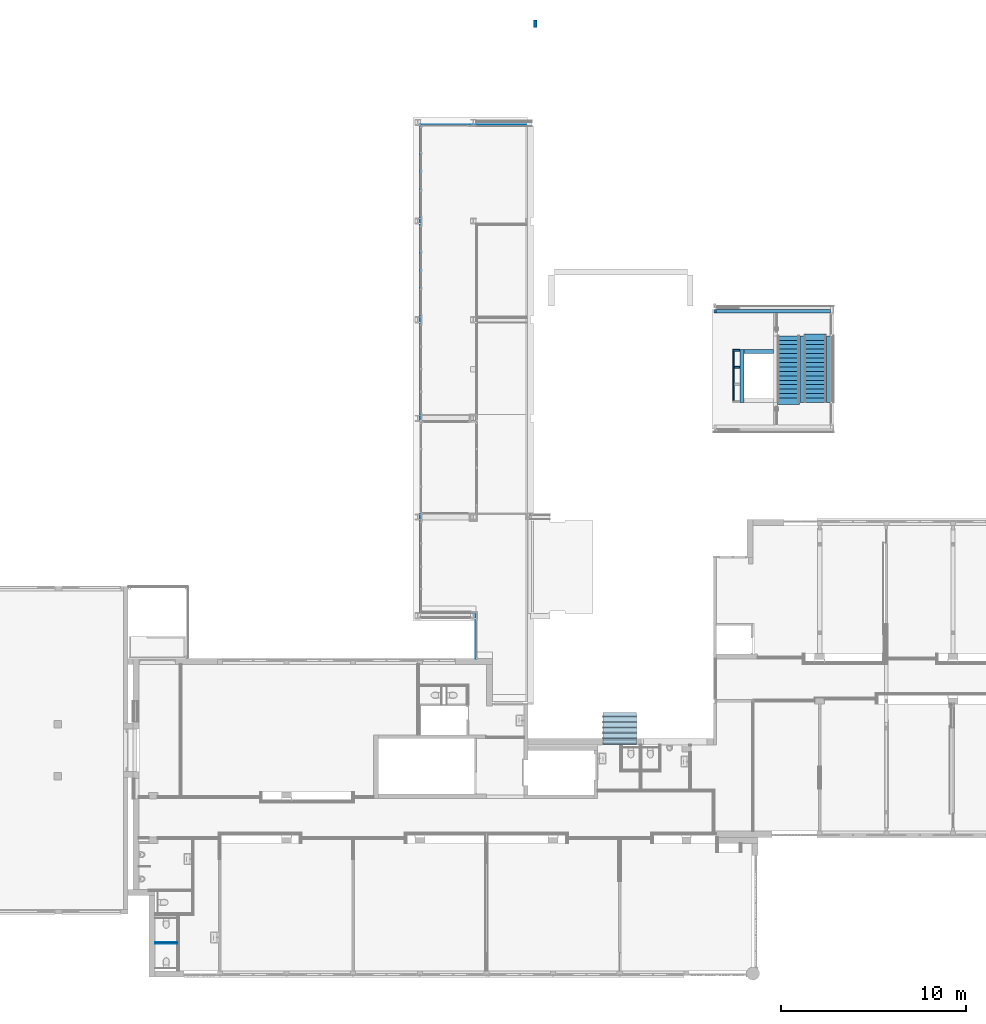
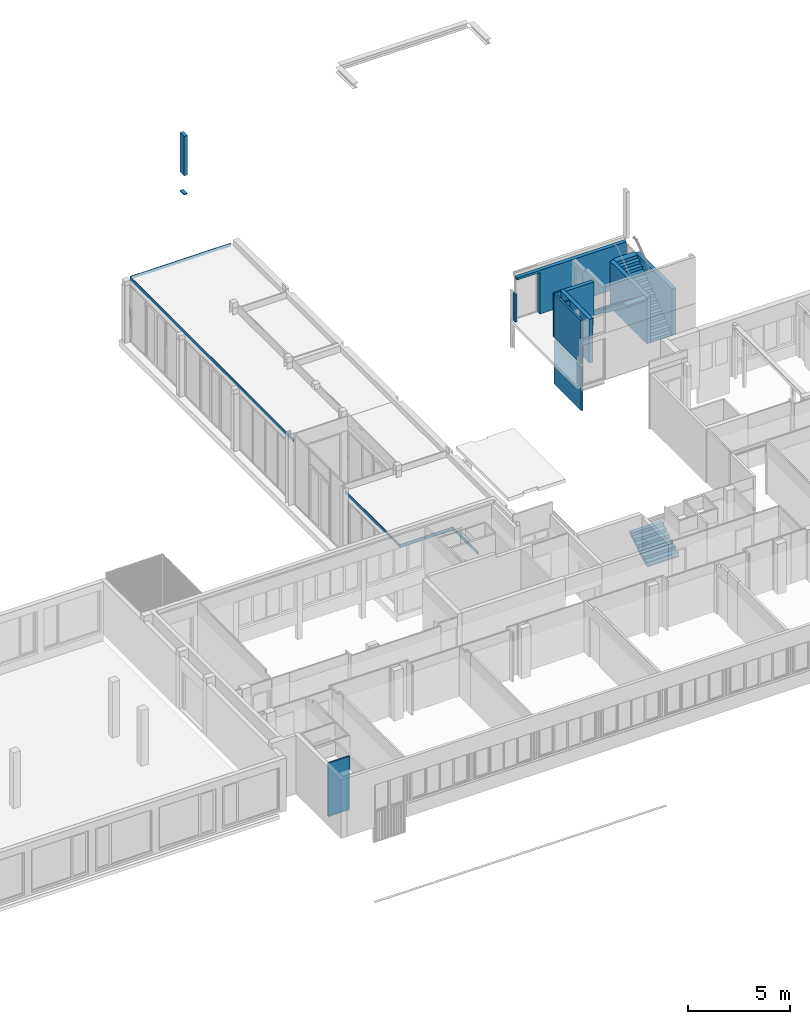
# One storey, part 56 of 99: 10 walls, 3 building element parts, 3 stair flights, 1 roof, 4 elements without a shape of their own.
"""IFC2X3 building model written with IfcOpenShell, lengths in millimetres."""

from ifc_helpers import new_model, entity, si_unit, converted_unit, derived_unit, money_unit, direction, frame, origin_with_axes, place, context, subcontext, project, spatial, faceted_brep, material, type_object, element, aggregate, save


model = new_model("IFC2X3")

# Units and contexts
model_context = context("Model", 3, precision=0.01, world=origin_with_axes(), true_north=direction((0.0, 1.0)))
body_context = subcontext(model_context, "Body", "Model", "MODEL_VIEW")
ifc_project = project(units=[si_unit("LENGTHUNIT", "METRE", prefix="MILLI"), si_unit("AREAUNIT", "SQUARE_METRE"), si_unit("VOLUMEUNIT", "CUBIC_METRE"), converted_unit("PLANEANGLEUNIT", "DEGREE", entity("IfcPlaneAngleMeasure", 0.0174532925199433), si_unit("PLANEANGLEUNIT", "RADIAN"), dimensions=[0, 0, 0, 0, 0, 0, 0]), money_unit("EUR"), converted_unit("TIMEUNIT", "Year", entity("IfcTimeMeasure", 31557600.0), si_unit("TIMEUNIT", "SECOND"), dimensions=[0, 0, 1, 0, 0, 0, 0]), si_unit("MASSUNIT", "GRAM", prefix="KILO"), si_unit("THERMODYNAMICTEMPERATUREUNIT", "DEGREE_CELSIUS"), si_unit("LUMINOUSINTENSITYUNIT", "LUMEN"), si_unit("ENERGYUNIT", "JOULE", prefix="MEGA"), derived_unit("THERMALCONDUCTANCEUNIT", [(si_unit("POWERUNIT", "WATT"), 1), (si_unit("LENGTHUNIT", "METRE"), -1), (si_unit("THERMODYNAMICTEMPERATUREUNIT", "KELVIN"), -1)]), derived_unit("SPECIFICHEATCAPACITYUNIT", [(si_unit("ENERGYUNIT", "JOULE"), 1), (si_unit("MASSUNIT", "GRAM", prefix="KILO"), -1), (si_unit("THERMODYNAMICTEMPERATUREUNIT", "KELVIN"), -1)]), derived_unit("MASSDENSITYUNIT", [(si_unit("MASSUNIT", "GRAM", prefix="KILO"), 1), (si_unit("VOLUMEUNIT", "CUBIC_METRE"), -1)])], contexts=[model_context])

# Site, building, storey
site_placement = place(None, origin_with_axes())
site = spatial("IfcSite", under=ifc_project, at=site_placement, Name="Site", CompositionType="ELEMENT")
building_placement = place(site_placement, origin_with_axes())
building = spatial("IfcBuilding", under=site, at=building_placement, Name="Naam gebouw", CompositionType="ELEMENT")
storey_placement = place(building_placement, frame((0.0, 0.0, 7650.0), z_axis=(0.0, 0.0, 1.0), x_axis=(1.0, 0.0, 0.0)))
storey = spatial("IfcBuildingStorey", under=building, at=storey_placement, Name="2e verdieping N", CompositionType="ELEMENT", Elevation=7650.0)

# Walls
ifc_material_1 = material(Name="ALG - CONSTRUCTIEF")
wall_type_1 = type_object("IfcWallType", Name="ALG - CONSTRUCTIEF 400", PredefinedType="NOTDEFINED")
wall_1_placement = place(storey_placement, frame((20536.0, 54605.9124251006, -99.99999999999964), z_axis=(0.0, 0.0, 1.0), x_axis=(1.0, 0.0, 0.0)))
element("IfcWall", 1, at=wall_1_placement, inside=storey, type_object=wall_type_1, material=ifc_material_1, Name="_Wand-x", context=body_context, shape_type="Brep", body=[
    faceted_brep([(0.0, 200.0000000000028, 0.0), (0.0, 200.0000000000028, 49.99999999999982), (188.9999999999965, 200.0000000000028, 49.99999999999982), (188.9999999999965, 200.0000000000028, 0.0), (0.0, -200.0000000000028, 0.0), (0.0, -200.0000000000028, 49.99999999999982), (188.9999999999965, -200.0000000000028, 49.99999999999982), (188.9999999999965, -200.0000000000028, 0.0)], [[[0, 1, 2, 3]], [[4, 5, 1, 0]], [[5, 6, 2, 1]], [[3, 2, 6, 7]], [[0, 3, 7, 4]], [[7, 6, 5, 4]]]),
    faceted_brep([(188.9999999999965, -200.0000000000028, 3500.0), (188.9999999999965, -200.0000000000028, 1139.999999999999), (188.9999999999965, 200.0000000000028, 1139.999999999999), (188.9999999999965, 200.0000000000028, 3500.0), (0.0, -200.0000000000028, 3500.0), (0.0, -200.0000000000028, 1139.999999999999), (0.0, 200.0000000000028, 1139.999999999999), (0.0, 200.0000000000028, 3500.0)], [[[0, 1, 2, 3]], [[4, 5, 1, 0]], [[5, 6, 2, 1]], [[3, 2, 6, 7]], [[0, 3, 7, 4]], [[7, 6, 5, 4]]]),
])
ifc_material_2 = material(Name="kalkzandsteen")
wall_type_2 = type_object("IfcWallType", Name="Basic Wall:NLRS_28_kalkzandsteen 100mm", PredefinedType="STANDARD")
wall_2_placement = place(storey_placement, frame((31342.00000005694, 34195.91242627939, -4500.0), z_axis=(0.0, 0.0, 1.0), x_axis=(0.0, 1.0, 0.0)))
element("IfcWall", 2, at=wall_2_placement, inside=storey, type_object=wall_type_2, material=ifc_material_2, Name="Basic Wall:NLRS_28_kalkzandsteen 100mm", context=body_context, shape_type="Brep", body=[
    faceted_brep([(2717.999999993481, 50.0000000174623, 0.0), (2717.999999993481, -50.0000000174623, 0.0), (49.99999998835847, -50.0000000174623, 0.0), (49.99999998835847, 50.0000000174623, 0.0), (2717.999999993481, 50.0000000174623, 2600.0), (2717.999999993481, -50.0000000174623, 2600.0), (49.99999998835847, -50.0000000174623, 2600.0), (49.99999998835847, 50.0000000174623, 2600.0)], [[[0, 1, 2, 3]], [[1, 0, 4, 5]], [[1, 5, 6, 2]], [[7, 3, 2, 6]], [[4, 0, 3, 7]], [[5, 4, 7, 6]]]),
])
wall_3_placement = place(storey_placement, frame((31342.00000005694, 34195.91242627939, -1729.99999999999), z_axis=(0.0, 0.0, 1.0), x_axis=(0.0, 1.0, 0.0)))
element("IfcWall", 3, at=wall_3_placement, inside=storey, type_object=wall_type_2, material=ifc_material_2, Name="Basic Wall:NLRS_28_kalkzandsteen 100mm", context=body_context, shape_type="Brep", body=[
    faceted_brep([(2718.000000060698, 49.99999998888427, 0.0), (2718.000000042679, -50.00000007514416, 0.0), (49.99999999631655, -50.00000004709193, 0.0), (49.99999998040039, 50.0000000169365, 0.0), (2718.000000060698, 49.99999998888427, 2600.000000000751), (2718.000000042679, -50.00000007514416, 2600.000000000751), (49.99999999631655, -50.00000004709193, 2600.000000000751), (49.99999998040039, 50.0000000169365, 2600.000000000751)], [[[0, 1, 2, 3]], [[1, 0, 4, 5]], [[1, 5, 6, 2]], [[7, 3, 2, 6]], [[4, 0, 3, 7]], [[5, 4, 7, 6]]]),
])
wall_4_placement = place(storey_placement, frame((31685.00000002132, 36963.91242631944, -1729.99999999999), z_axis=(0.0, 0.0, 1.0), x_axis=(-1.0, 1.69701635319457e-10, 0.0)))
element("IfcWall", 4, at=wall_4_placement, inside=storey, type_object=wall_type_2, material=ifc_material_2, Name="Basic Wall:NLRS_28_kalkzandsteen 100mm", context=body_context, shape_type="Brep", body=[
    faceted_brep([(393.0000000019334, 50.00000011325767, 0.0), (393.0000000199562, -49.99999992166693, 0.0), (8.487432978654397e-09, -49.99999998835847, 0.0), (-8.483880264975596e-09, 50.00000004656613, 0.0), (393.0000000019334, 50.00000011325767, 2600.000000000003), (393.0000000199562, -49.99999992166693, 2600.000000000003), (8.487432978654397e-09, -49.99999998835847, 2600.000000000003), (-8.483880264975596e-09, 50.00000004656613, 2600.000000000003)], [[[0, 1, 2, 3]], [[1, 0, 4, 5]], [[1, 5, 6, 2]], [[7, 3, 2, 6]], [[4, 0, 3, 7]], [[5, 4, 7, 6]]]),
])
wall_5_placement = place(storey_placement, frame((31792.00000003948, 36049.91242632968, -1729.99999999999), z_axis=(0.0, 0.0, 1.0), x_axis=(-1.0, 0.0, 0.0)))
element("IfcWall", 5, at=wall_5_placement, inside=storey, type_object=wall_type_2, material=ifc_material_2, Name="Basic Wall:NLRS_28_kalkzandsteen 100mm", context=body_context, shape_type="Brep", body=[
    faceted_brep([(399.9999999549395, 50.00000004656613, 0.0), (399.9999999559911, -50.00000004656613, 0.0), (106.999999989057, -50.00000004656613, 0.0), (106.999999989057, 50.00000004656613, 0.0), (399.9999999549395, 50.00000004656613, 2600.000000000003), (399.9999999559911, -50.00000004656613, 2600.000000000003), (106.999999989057, -50.00000004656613, 2600.000000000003), (106.999999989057, 50.00000004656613, 2600.000000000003)], [[[0, 1, 2, 3]], [[1, 0, 4, 5]], [[1, 5, 6, 2]], [[7, 3, 2, 6]], [[4, 0, 3, 7]], [[5, 4, 7, 6]]]),
])
wall_type_3 = type_object("IfcWallType", Name="Basic Wall:NLRS_28_kalkzandsteen 214mm", PredefinedType="STANDARD")
wall_6_placement = place(storey_placement, frame((36474.00000001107, 37745.91242626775, -1729.99999999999), z_axis=(0.0, 0.0, 1.0), x_axis=(0.0, -1.0, 0.0)))
element("IfcWall", 6, at=wall_6_placement, inside=storey, type_object=wall_type_3, material=ifc_material_2, Name="Basic Wall:NLRS_28_kalkzandsteen 214mm", context=body_context, shape_type="Brep", body=[
    faceted_brep([(0.0, 107.0000000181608, 0.0), (3599.999999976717, 107.0000000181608, 0.0), (3599.999999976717, -106.999999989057, 0.0), (0.0, -106.999999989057, 0.0), (0.0, 107.0000000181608, 2769.999999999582), (3599.999999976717, 107.0000000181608, 2769.999999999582), (3599.999999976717, -106.999999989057, 2769.999999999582), (0.0, -106.999999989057, 2769.999999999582)], [[[0, 1, 2, 3]], [[4, 5, 1, 0]], [[2, 1, 5, 6]], [[3, 2, 6, 7]], [[4, 0, 3, 7]], [[7, 6, 5, 4]]]),
])
wall_7_placement = place(storey_placement, frame((31792.00000003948, 36906.91242634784, -1729.99999999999), z_axis=(0.0, 0.0, 1.0), x_axis=(1.0, 0.0, 0.0)))
element("IfcWall", 7, at=wall_7_placement, inside=storey, type_object=wall_type_3, material=ifc_material_2, Name="Basic Wall:NLRS_28_kalkzandsteen 214mm", context=body_context, shape_type="Brep", body=[
    faceted_brep([(1706.99999998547, 107.0000000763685, 0.0), (1706.99999998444, -107.0000000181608, 0.0), (107.0000000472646, -107.0000000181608, 0.0), (107.0000000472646, 107.0000000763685, 0.0), (1706.99999998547, 107.0000000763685, 2600.000000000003), (1706.99999998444, -107.0000000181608, 2600.000000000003), (107.0000000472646, -107.0000000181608, 2600.000000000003), (107.0000000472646, 107.0000000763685, 2600.000000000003)], [[[0, 1, 2, 3]], [[1, 0, 4, 5]], [[1, 5, 6, 2]], [[7, 3, 2, 6]], [[4, 0, 3, 7]], [[5, 4, 7, 6]]]),
])
wall_8_placement = place(storey_placement, frame((31792.00000003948, 36906.91242634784, -1729.99999999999), z_axis=(0.0, 0.0, 1.0), x_axis=(0.0, -1.0, 0.0)))
element("IfcWall", 8, at=wall_8_placement, inside=storey, type_object=wall_type_3, material=ifc_material_2, Name="Basic Wall:NLRS_28_kalkzandsteen 214mm", context=body_context, shape_type="Brep", body=[
    faceted_brep([(2761.000000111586, 107.0000000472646, 0.0), (2761.00000011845, -106.999999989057, 0.0), (-107.0000000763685, -106.999999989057, 0.0), (-107.0000000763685, 107.0000000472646, 0.0), (2761.000000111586, 107.0000000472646, 2600.000000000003), (2761.00000011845, -106.999999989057, 2600.000000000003), (-107.0000000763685, -106.999999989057, 2600.000000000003), (-107.0000000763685, 107.0000000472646, 2600.000000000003)], [[[0, 1, 2, 3]], [[1, 0, 4, 5]], [[1, 5, 6, 2]], [[7, 3, 2, 6]], [[4, 0, 3, 7]], [[5, 4, 7, 6]]]),
])
wall_9_placement = place(storey_placement, frame((35040.0000000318, 34145.91242629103, -1729.99999999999), z_axis=(0.0, 0.0, 1.0), x_axis=(0.0, 1.0, 0.0)))
element("IfcWall", 9, at=wall_9_placement, inside=storey, type_object=wall_type_3, material=ifc_material_2, Name="Basic Wall:NLRS_28_kalkzandsteen 214mm", context=body_context, shape_type="Brep", body=[
    faceted_brep([(0.0, 107.0000000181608, 0.0), (3599.999999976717, 107.0000000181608, 0.0), (3599.999999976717, -106.999999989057, 0.0), (0.0, -106.999999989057, 0.0), (0.0, 107.0000000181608, 2770.000000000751), (3599.999999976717, 107.0000000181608, 2770.000000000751), (3599.999999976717, -106.999999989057, 2770.000000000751), (0.0, -106.999999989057, 2770.000000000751)], [[[0, 1, 2, 3]], [[4, 5, 1, 0]], [[2, 1, 5, 6]], [[3, 2, 6, 7]], [[4, 0, 3, 7]], [[7, 6, 5, 4]]]),
])
wall_10_placement = place(storey_placement, frame((30291.00000005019, 39072.91242631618, -1729.99999999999), z_axis=(0.0, 0.0, 1.0), x_axis=(1.0, 0.0, 0.0)))
element("IfcWall", 10, at=wall_10_placement, inside=storey, type_object=wall_type_3, material=ifc_material_2, Name="Basic Wall:NLRS_28_kalkzandsteen 214mm", context=body_context, shape_type="Brep", body=[
    faceted_brep([(100.0, -107.0, 1630.0), (0.0, -107.0, 1630.0), (0.0, -107.0, 0.0), (100.0, -107.0, 0.0), (100.0, 107.0, 1630.0), (0.0, 107.0, 1630.0), (0.0, 107.0, 0.0), (100.0, 107.0, 0.0)], [[[0, 1, 2, 3]], [[4, 5, 1, 0]], [[6, 2, 1, 5]], [[2, 6, 7, 3]], [[0, 3, 7, 4]], [[5, 4, 7, 6]]]),
    faceted_brep([(6290.0, 107.0, 2600.0), (6290.0, 107.0, 0.0), (1394.01028261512, 107.0, 0.0), (1394.01028261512, 107.0, 2470.0), (100.0, 107.0, 2470.0), (100.0, 107.0, 2600.0), (6290.0, -107.0, 2600.0), (6290.0, -107.0, 0.0), (3422.0, -107.0, 0.0), (3208.0, -107.0, 0.0), (1394.01028261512, -107.0, 0.0), (1394.01028261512, -107.0, 2470.0), (100.0, -107.0, 2470.0), (100.0, -107.0, 2600.0)], [[[0, 1, 2, 3, 4, 5]], [[6, 7, 1, 0]], [[1, 7, 8, 9, 10, 2]], [[11, 3, 2, 10]], [[3, 11, 12, 4]], [[13, 5, 4, 12]], [[13, 6, 0, 5]], [[7, 6, 13, 12, 11, 10, 9, 8]]]),
])

# Stair, stair flight
stair_1_placement = place(storey_placement, frame((24296.00000000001, 15650.91242510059, 0.0), z_axis=(0.0, 0.0, 1.0), x_axis=(-0.05672669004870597, 0.9983897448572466, 0.0)))
stair_1 = element("IfcStair", 11, at=stair_1_placement, inside=storey, Name="_Trap-x", ShapeType="NOTDEFINED")
ifc_material_3 = material(Name="Beton C")
stair_flight_type_1 = type_object("IfcStairFlightType", Name="IfcStairFlight", PredefinedType="NOTDEFINED")
stair_flight_1_placement = place(stair_1_placement, origin_with_axes())
stair_flight_1 = element("IfcStairFlight", 12, at=stair_flight_1_placement, type_object=stair_flight_type_1, material=ifc_material_3, Name="_Trapsegment-x", context=body_context, shape_type="Brep", body=[
    faceted_brep([(1655.057908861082, -1896.940515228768, 1002.0), (1655.057908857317, -1896.940515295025, 828.2834653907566), (1757.165950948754, -99.83897448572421, 828.2834653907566), (1757.165950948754, -99.83897448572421, 1002.0), (1459.817247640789, -1885.847295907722, 712.7279098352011), (1557.437578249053, -1891.393905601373, 770.5056876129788), (1420.203361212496, -1883.596506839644, 1002.0), (1420.203361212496, -1883.596506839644, 828.6666666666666), (1127.342369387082, -1866.956677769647, 828.6666666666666), (1127.342369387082, -1866.956677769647, 655.3333333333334), (834.4813775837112, -1850.316848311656, 655.3333333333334), (834.4813775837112, -1850.316848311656, 482.0000000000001), (541.6203857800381, -1833.677018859, 482.0000000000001), (541.6203857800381, -1833.677018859, 308.6666666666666), (248.7593939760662, -1817.037189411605, 308.6666666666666), (248.7593939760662, -1817.037189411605, 135.3333333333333), (-44.10159782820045, -1800.397359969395, 135.3333333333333), (-44.10159782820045, -1800.397359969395, -38.00000000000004), (-102.1080420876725, -1797.101540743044, -38.00000000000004), (-102.1080420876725, -1797.101540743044, -99.99999999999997), (86.64627596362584, -1807.82621790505, -99.99999999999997), (93.13261912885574, -1808.194760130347, -96.1609790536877), (190.7529497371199, -1813.741369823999, -38.38320127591), (288.373280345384, -1819.28797951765, 19.39457650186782), (385.9936109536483, -1824.834589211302, 77.17235427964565), (483.6139415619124, -1830.381198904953, 134.9501320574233), (581.2342721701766, -1835.927808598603, 192.727909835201), (678.8546027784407, -1841.474418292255, 250.505687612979), (776.4749333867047, -1847.021027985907, 308.2834653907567), (874.0952639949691, -1852.567637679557, 366.0612431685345), (971.7155946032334, -1858.114247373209, 423.8390209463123), (1069.335925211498, -1863.66085706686, 481.6167987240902), (1166.956255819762, -1869.207466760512, 539.3945765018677), (1264.576586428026, -1874.754076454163, 597.1723542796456), (1362.196917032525, -1880.300686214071, 654.9501320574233), (1659.54562034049, -94.29236479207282, 770.5056876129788), (188.7543180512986, -10.72467716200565, -99.99999999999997), (0.0, 0.0, -99.99999999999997), (0.0, 0.0, -38.00000000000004), (58.00644417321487, -3.295820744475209, -38.00000000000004), (58.00644417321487, -3.295820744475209, 135.3333333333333), (350.8674359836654, -19.93565007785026, 135.3333333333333), (350.8674359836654, -19.93565007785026, 308.6666666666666), (643.7284278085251, -36.57547915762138, 308.6666666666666), (643.7284278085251, -36.57547915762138, 482.0000000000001), (936.5894196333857, -53.21530823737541, 482.0000000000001), (936.5894196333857, -53.21530823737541, 655.3333333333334), (1229.450411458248, -69.85513731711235, 655.3333333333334), (1229.450411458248, -69.85513731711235, 828.6666666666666), (1522.311403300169, -86.49496609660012, 828.6666666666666), (1522.311403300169, -86.49496609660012, 1002.0), (1561.925289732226, -88.74575509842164, 712.7279098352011), (1464.304959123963, -83.19914540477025, 654.9501320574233), (1366.684628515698, -77.65253571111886, 597.1723542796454), (1269.064297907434, -72.10592601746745, 539.3945765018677), (1171.44396729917, -66.55931632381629, 481.6167987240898), (1073.823636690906, -61.01270663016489, 423.8390209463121), (976.2033060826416, -55.46609693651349, 366.0612431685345), (878.5829754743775, -49.9194872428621, 308.2834653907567), (780.9626448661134, -44.37287754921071, 250.505687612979), (683.3423142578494, -38.82626785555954, 192.7279098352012), (585.7219836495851, -33.27965816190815, 134.9501320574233), (488.101653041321, -27.73304846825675, 77.17235427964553), (390.4813224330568, -22.18643877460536, 19.39457650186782), (292.8609918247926, -16.63982908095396, -38.38320127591), (195.2406612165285, -11.09321938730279, -96.1609790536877)], [[[0, 1, 2, 3]], [[4, 5, 1, 0, 6, 7, 8, 9, 10, 11, 12, 13, 14, 15, 16, 17, 18, 19, 20, 21, 22, 23, 24, 25, 26, 27, 28, 29, 30, 31, 32, 33, 34]], [[35, 2, 1, 5]], [[36, 37, 38, 39, 40, 41, 42, 43, 44, 45, 46, 47, 48, 49, 50, 3, 2, 35, 51, 52, 53, 54, 55, 56, 57, 58, 59, 60, 61, 62, 63, 64, 65]], [[0, 3, 50, 6]], [[4, 51, 35, 5]], [[49, 7, 6, 50]], [[48, 8, 7, 49]], [[47, 9, 8, 48]], [[46, 10, 9, 47]], [[45, 11, 10, 46]], [[44, 12, 11, 45]], [[43, 13, 12, 44]], [[42, 14, 13, 43]], [[41, 15, 14, 42]], [[40, 16, 15, 41]], [[39, 17, 16, 40]], [[18, 17, 39, 38]], [[37, 19, 18, 38]], [[19, 37, 36, 20]], [[20, 36, 65, 21]], [[21, 65, 64, 22]], [[22, 64, 63, 23]], [[23, 63, 62, 24]], [[24, 62, 61, 25]], [[25, 61, 60, 26]], [[26, 60, 59, 27]], [[27, 59, 58, 28]], [[28, 58, 57, 29]], [[29, 57, 56, 30]], [[30, 56, 55, 31]], [[31, 55, 54, 32]], [[32, 54, 53, 33]], [[33, 53, 52, 34]], [[34, 52, 51, 4]]]),
])
aggregate(stair_1, [stair_flight_1])

stair_2_placement = place(storey_placement, frame((0.0, 0.0, -7650.0), z_axis=(0.0, 0.0, 1.0), x_axis=(1.0, 0.0, 0.0)))
stair_2 = element("IfcStair", 13, at=stair_2_placement, inside=storey, Name="Precast Stair:Stair", ObjectType="Precast Stair:24_trap - prefab", ShapeType="NOTDEFINED")
ifc_material_4 = material(Name="beton")
stair_flight_type_2 = type_object("IfcStairFlightType", Name="Monolithic Run:prefab trap", PredefinedType="STRAIGHT")
stair_flight_2_placement = place(stair_2_placement, frame((36357.00000004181, 34145.91242629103, 4150.0), z_axis=(0.0, 0.0, 1.0), x_axis=(0.0, 1.0, 0.0)))
stair_flight_2 = element("IfcStairFlight", 14, at=stair_flight_2_placement, type_object=stair_flight_type_2, material=ifc_material_4, Name="Precast Stair:Stair:2462882 Run 1", RiserHeight=0.605862, TreadLength=0.787402, context=body_context, shape_type="Brep", body=[
    faceted_brep([(240.0, 1200.0, 1954.66666666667), (0.0, 1200.0, 1954.66666666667), (0.0, 0.0, 1954.66666666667), (240.0, 0.0, 1954.66666666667), (240.0, 1200.0, 1770.0), (0.0, 1200.0, 1770.0), (0.0, 0.0, 1770.0), (240.0, 0.0, 1770.0), (240.0, 0.0, 2139.33333333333), (240.0, 1200.0, 2139.33333333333), (480.0000000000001, 1200.0, 2139.33333333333), (480.0000000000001, 1200.0, 1950.06894961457), (245.97537234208, 1200.0, 1770.0), (245.97537234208, 0.0, 1770.0), (480.0000000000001, 0.0, 1950.06894961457), (480.0000000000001, 0.0, 2139.33333333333), (480.0000000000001, 1200.0, 2324.0), (720.0000000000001, 1200.0, 2324.0), (720.0000000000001, 1200.0, 2134.73561628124), (960.0, 1200.0, 2319.4022829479), (1200.0, 1200.0, 2504.06894961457), (1440.0, 1200.0, 2688.73561628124), (1680.0, 1200.0, 2873.4022829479), (1920.0, 1200.0, 3058.06894961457), (2160.0, 1200.0, 3242.73561628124), (2400.0, 1200.0, 3427.40228294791), (2640.0, 1200.0, 3612.06894961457), (2880.0, 1200.0, 3796.73561628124), (3120.0, 1200.0, 3981.402282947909), (3360.0, 1200.0, 4166.068949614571), (3600.0, 1200.0, 4350.735616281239), (3600.0, 0.0, 4350.73561628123), (3360.0, 0.0, 4166.068949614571), (3120.0, 0.0, 3981.4022829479), (2880.0, 0.0, 3796.73561628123), (2640.0, 0.0, 3612.06894961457), (2400.0, 0.0, 3427.4022829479), (2160.0, 0.0, 3242.73561628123), (1920.0, 0.0, 3058.06894961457), (1680.0, 0.0, 2873.4022829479), (1440.0, 0.0, 2688.73561628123), (1200.0, 0.0, 2504.06894961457), (960.0, 0.0, 2319.4022829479), (720.0000000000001, 0.0, 2134.73561628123), (720.0000000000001, 0.0, 2324.0), (480.0000000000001, 0.0, 2324.0), (720.0000000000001, 1200.0, 2508.66666666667), (960.0, 1200.0, 2508.66666666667), (960.0, 1200.0, 2693.33333333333), (1200.0, 1200.0, 2693.33333333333), (1200.0, 1200.0, 2878.0), (1440.0, 1200.0, 2878.0), (1440.0, 1200.0, 3062.66666666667), (1680.0, 1200.0, 3062.66666666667), (1680.0, 1200.0, 3247.33333333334), (1920.0, 1200.0, 3247.33333333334), (1920.0, 1200.0, 3432.0), (2160.0, 1200.0, 3432.0), (2160.0, 1200.0, 3616.66666666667), (2400.0, 1200.0, 3616.66666666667), (2400.0, 1200.0, 3801.33333333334), (2640.0, 1200.0, 3801.33333333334), (2640.0, 1200.0, 3986.0), (2880.0, 1200.0, 3986.0), (2880.0, 1200.0, 4170.66666666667), (3120.0, 1200.0, 4170.66666666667), (3120.0, 1200.0, 4355.33333333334), (3360.0, 1200.0, 4355.33333333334), (3360.0, 1200.0, 4540.0), (3700.0, 1200.0, 4540.0), (3700.0, 1200.0, 4440.0), (3600.0, 1200.0, 4440.0), (3600.0, 0.0, 4440.0), (3700.0, 0.0, 4540.0), (3360.0, 0.0, 4540.0), (3360.0, 0.0, 4355.33333333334), (3700.0, 0.0, 4440.0), (3120.0, 0.0, 4355.33333333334), (3120.0, 0.0, 4170.66666666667), (2880.0, 0.0, 4170.66666666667), (2880.0, 0.0, 3986.0), (2640.0, 0.0, 3986.0), (2640.0, 0.0, 3801.33333333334), (2400.0, 0.0, 3801.33333333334), (2400.0, 0.0, 3616.66666666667), (2160.0, 0.0, 3616.66666666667), (2160.0, 0.0, 3432.0), (1920.0, 0.0, 3432.0), (1920.0, 0.0, 3247.33333333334), (1680.0, 0.0, 3247.33333333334), (1680.0, 0.0, 3062.66666666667), (1440.0, 0.0, 3062.66666666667), (1440.0, 0.0, 2878.0), (1200.0, 0.0, 2878.0), (1200.0, 0.0, 2693.33333333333), (960.0, 0.0, 2693.33333333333), (960.0, 0.0, 2508.66666666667), (720.0000000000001, 0.0, 2508.66666666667)], [[[0, 1, 2, 3]], [[1, 0, 4, 5]], [[2, 1, 5, 6]], [[3, 2, 6, 7]], [[0, 3, 8, 9]], [[4, 0, 9, 10, 11, 12]], [[5, 4, 12, 13, 7, 6]], [[3, 7, 13, 14, 15, 8]], [[10, 9, 8, 15]], [[16, 17, 18, 11, 10]], [[13, 12, 11, 18, 19, 20, 21, 22, 23, 24, 25, 26, 27, 28, 29, 30, 31, 32, 33, 34, 35, 36, 37, 38, 39, 40, 41, 42, 43, 14]], [[44, 45, 15, 14, 43]], [[10, 15, 45, 16]], [[17, 16, 45, 44]], [[46, 47, 19, 18, 17]], [[48, 49, 20, 19, 47]], [[50, 51, 21, 20, 49]], [[52, 53, 22, 21, 51]], [[54, 55, 23, 22, 53]], [[56, 57, 24, 23, 55]], [[58, 59, 25, 24, 57]], [[60, 61, 26, 25, 59]], [[62, 63, 27, 26, 61]], [[64, 65, 28, 27, 63]], [[66, 67, 29, 28, 65]], [[68, 69, 70, 71, 30, 29, 67]], [[31, 30, 71, 72]], [[73, 74, 75, 32, 31, 72, 76]], [[75, 77, 78, 33, 32]], [[78, 79, 80, 34, 33]], [[80, 81, 82, 35, 34]], [[82, 83, 84, 36, 35]], [[84, 85, 86, 37, 36]], [[86, 87, 88, 38, 37]], [[88, 89, 90, 39, 38]], [[90, 91, 92, 40, 39]], [[92, 93, 94, 41, 40]], [[94, 95, 96, 42, 41]], [[96, 97, 44, 43, 42]], [[17, 44, 97, 46]], [[47, 46, 97, 96]], [[49, 48, 95, 94]], [[47, 96, 95, 48]], [[51, 50, 93, 92]], [[49, 94, 93, 50]], [[53, 52, 91, 90]], [[51, 92, 91, 52]], [[55, 54, 89, 88]], [[53, 90, 89, 54]], [[57, 56, 87, 86]], [[55, 88, 87, 56]], [[59, 58, 85, 84]], [[57, 86, 85, 58]], [[61, 60, 83, 82]], [[59, 84, 83, 60]], [[63, 62, 81, 80]], [[61, 82, 81, 62]], [[65, 64, 79, 78]], [[63, 80, 79, 64]], [[67, 66, 77, 75]], [[65, 78, 77, 66]], [[68, 74, 73, 69]], [[76, 70, 69, 73]], [[76, 72, 71, 70]], [[67, 75, 74, 68]]]),
])
aggregate(stair_2, [stair_flight_2])

stair_3_placement = place(storey_placement, frame((0.0, 0.0, -7650.0), z_axis=(0.0, 0.0, 1.0), x_axis=(1.0, 0.0, 0.0)))
stair_3 = element("IfcStair", 15, at=stair_3_placement, inside=storey, Name="Precast Stair:Stair", ObjectType="Precast Stair:24_trap - prefab", ShapeType="NOTDEFINED")
stair_flight_3_placement = place(stair_3_placement, frame((34923.00000006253, 34045.91242631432, 4150.0), z_axis=(0.0, 0.0, 1.0), x_axis=(0.0, 1.0, 0.0)))
stair_flight_3 = element("IfcStairFlight", 16, at=stair_flight_3_placement, type_object=stair_flight_type_2, material=ifc_material_4, Name="Precast Stair:Stair:2462895 Run 1", RiserHeight=0.605862, TreadLength=0.787402, context=body_context, shape_type="Brep", body=[
    faceted_brep([(3460.0, 0.0, 1954.66666666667), (3700.0, 0.0, 1954.66666666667), (3700.0, 1200.0, 1954.66666666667), (3460.0, 1200.0, 1954.66666666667), (3460.0, 0.0, 1770.0), (3700.0, 0.0, 1770.0), (3700.0, 1200.0, 1770.0), (3460.0, 1200.0, 1770.0), (3460.0, 1200.0, 2139.33333333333), (3460.0, 0.0, 2139.33333333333), (3220.0, 0.0, 2139.33333333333), (3220.0, 0.0, 1950.06894961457), (3454.02462765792, 0.0, 1770.0), (3454.02462765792, 1200.0, 1770.0), (3220.0, 1200.0, 1950.06894961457), (3220.0, 1200.0, 2139.33333333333), (3220.0, 0.0, 2324.0), (2980.0, 0.0, 2324.0), (2980.0, 0.0, 2134.73561628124), (2740.0, 0.0, 2319.4022829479), (2500.0, 0.0, 2504.06894961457), (2260.0, 0.0, 2688.73561628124), (2020.0, 0.0, 2873.4022829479), (1780.0, 0.0, 3058.06894961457), (1540.0, 0.0, 3242.73561628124), (1300.0, 0.0, 3427.4022829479), (1060.0, 0.0, 3612.06894961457), (820.0000000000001, 0.0, 3796.73561628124), (580.0, 0.0, 3981.402282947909), (340.0, 0.0, 4166.068949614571), (100.0, 0.0, 4350.735616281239), (100.0, 1200.0, 4350.735616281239), (340.0, 1200.0, 4166.068949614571), (580.0, 1200.0, 3981.4022829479), (820.0000000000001, 1200.0, 3796.73561628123), (1060.0, 1200.0, 3612.06894961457), (1300.0, 1200.0, 3427.4022829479), (1540.0, 1200.0, 3242.73561628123), (1780.0, 1200.0, 3058.06894961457), (2020.0, 1200.0, 2873.4022829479), (2260.0, 1200.0, 2688.73561628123), (2500.0, 1200.0, 2504.06894961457), (2740.0, 1200.0, 2319.4022829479), (2980.0, 1200.0, 2134.73561628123), (2980.0, 1200.0, 2324.0), (3220.0, 1200.0, 2324.0), (2980.0, 0.0, 2508.66666666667), (2740.0, 0.0, 2508.66666666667), (2740.0, 0.0, 2693.33333333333), (2500.0, 0.0, 2693.33333333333), (2500.0, 0.0, 2878.0), (2260.0, 0.0, 2878.0), (2260.0, 0.0, 3062.66666666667), (2020.0, 0.0, 3062.66666666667), (2020.0, 0.0, 3247.33333333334), (1780.0, 0.0, 3247.33333333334), (1780.0, 0.0, 3432.0), (1540.0, 0.0, 3432.0), (1540.0, 0.0, 3616.66666666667), (1300.0, 0.0, 3616.66666666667), (1300.0, 0.0, 3801.33333333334), (1060.0, 0.0, 3801.33333333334), (1060.0, 0.0, 3986.0), (820.0000000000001, 0.0, 3986.0), (820.0000000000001, 0.0, 4170.66666666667), (580.0, 0.0, 4170.66666666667), (580.0, 0.0, 4355.33333333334), (340.0, 0.0, 4355.33333333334), (340.0, 0.0, 4540.0), (0.0, 0.0, 4540.0), (0.0, 0.0, 4440.0), (100.0, 0.0, 4440.0), (100.0, 1200.0, 4440.0), (0.0, 1200.0, 4540.0), (340.0, 1200.0, 4540.0), (340.0, 1200.0, 4355.33333333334), (0.0, 1200.0, 4440.0), (580.0, 1200.0, 4355.33333333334), (580.0, 1200.0, 4170.66666666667), (820.0000000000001, 1200.0, 4170.66666666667), (820.0000000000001, 1200.0, 3986.0), (1060.0, 1200.0, 3986.0), (1060.0, 1200.0, 3801.33333333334), (1300.0, 1200.0, 3801.33333333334), (1300.0, 1200.0, 3616.66666666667), (1540.0, 1200.0, 3616.66666666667), (1540.0, 1200.0, 3432.0), (1780.0, 1200.0, 3432.0), (1780.0, 1200.0, 3247.33333333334), (2020.0, 1200.0, 3247.33333333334), (2020.0, 1200.0, 3062.66666666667), (2260.0, 1200.0, 3062.66666666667), (2260.0, 1200.0, 2878.0), (2500.0, 1200.0, 2878.0), (2500.0, 1200.0, 2693.33333333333), (2740.0, 1200.0, 2693.33333333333), (2740.0, 1200.0, 2508.66666666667), (2980.0, 1200.0, 2508.66666666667)], [[[0, 1, 2, 3]], [[1, 0, 4, 5]], [[2, 1, 5, 6]], [[3, 2, 6, 7]], [[0, 3, 8, 9]], [[4, 0, 9, 10, 11, 12]], [[5, 4, 12, 13, 7, 6]], [[3, 7, 13, 14, 15, 8]], [[10, 9, 8, 15]], [[16, 17, 18, 11, 10]], [[13, 12, 11, 18, 19, 20, 21, 22, 23, 24, 25, 26, 27, 28, 29, 30, 31, 32, 33, 34, 35, 36, 37, 38, 39, 40, 41, 42, 43, 14]], [[44, 45, 15, 14, 43]], [[10, 15, 45, 16]], [[17, 16, 45, 44]], [[46, 47, 19, 18, 17]], [[48, 49, 20, 19, 47]], [[50, 51, 21, 20, 49]], [[52, 53, 22, 21, 51]], [[54, 55, 23, 22, 53]], [[56, 57, 24, 23, 55]], [[58, 59, 25, 24, 57]], [[60, 61, 26, 25, 59]], [[62, 63, 27, 26, 61]], [[64, 65, 28, 27, 63]], [[66, 67, 29, 28, 65]], [[68, 69, 70, 71, 30, 29, 67]], [[31, 30, 71, 72]], [[73, 74, 75, 32, 31, 72, 76]], [[75, 77, 78, 33, 32]], [[78, 79, 80, 34, 33]], [[80, 81, 82, 35, 34]], [[82, 83, 84, 36, 35]], [[84, 85, 86, 37, 36]], [[86, 87, 88, 38, 37]], [[88, 89, 90, 39, 38]], [[90, 91, 92, 40, 39]], [[92, 93, 94, 41, 40]], [[94, 95, 96, 42, 41]], [[96, 97, 44, 43, 42]], [[17, 44, 97, 46]], [[47, 46, 97, 96]], [[49, 48, 95, 94]], [[47, 96, 95, 48]], [[51, 50, 93, 92]], [[49, 94, 93, 50]], [[53, 52, 91, 90]], [[51, 92, 91, 52]], [[55, 54, 89, 88]], [[53, 90, 89, 54]], [[57, 56, 87, 86]], [[55, 88, 87, 56]], [[59, 58, 85, 84]], [[57, 86, 85, 58]], [[61, 60, 83, 82]], [[59, 84, 83, 60]], [[63, 62, 81, 80]], [[61, 82, 81, 62]], [[65, 64, 79, 78]], [[63, 80, 79, 64]], [[67, 66, 77, 75]], [[65, 78, 77, 66]], [[68, 74, 73, 69]], [[76, 70, 69, 73]], [[76, 72, 71, 70]], [[67, 75, 74, 68]]]),
])
aggregate(stair_3, [stair_flight_3])

# Roof
ifc_material_5 = material(Name="Aluminum geanodiseerd RAL 7024")
roof_placement = place(storey_placement, frame((20141.00000002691, 20310.88439858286, 204.0000000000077), z_axis=(0.0, 0.0, 1.0), x_axis=(0.0, 1.0, 0.0)))
element("IfcRoof", 17, at=roof_placement, inside=storey, material=ifc_material_5, Name="Fascia:47_3B_dakrand HMB", ShapeType="NOTDEFINED", context=body_context, shape_type="Brep", body=[
    faceted_brep([(12825.02802772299, 5706.3694703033, 0.0), (12825.02802772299, 5696.3694703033, 0.0), (12825.02802772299, 5696.3694703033, 200.0), (12825.02802772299, 5706.3694703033, 200.0), (28825.02802772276, 5706.369470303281, 0.0), (28815.02802772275, 5696.36947030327, 0.0), (28815.02802772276, 5696.36947030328, 200.0), (28825.02802772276, 5706.369470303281, 200.0), (28825.02802772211, 0.0, 0.0), (28815.02802772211, 0.0, 0.0), (28815.02802772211, 0.0, 200.0), (28825.02802772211, 0.0, 200.0)], [[[0, 1, 2, 3]], [[4, 5, 1, 0]], [[5, 6, 2, 1]], [[6, 7, 3, 2]], [[7, 4, 0, 3]], [[8, 9, 5, 4]], [[9, 10, 6, 5]], [[10, 11, 7, 6]], [[11, 8, 4, 7]], [[8, 11, 10, 9]]]),
    faceted_brep([(7795.02802772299, 5706.3694703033, 0.0), (7795.02802772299, 5706.3694703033, 200.0), (7795.02802772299, 5696.3694703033, 200.0), (7795.02802772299, 5696.3694703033, 0.0), (2455.0280277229, 5706.36947030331, 0.0), (2455.0280277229, 5706.36947030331, 200.0), (2465.0280277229, 5696.36947030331, 200.0), (2465.0280277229, 5696.36947030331, 0.0), (2455.02802772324, 2708.99999999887, 0.0), (2455.02802772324, 2708.99999999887, 200.0), (2465.02802772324, 2698.99999999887, 200.0), (2465.02802772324, 2698.99999999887, 0.0), (0.0, 2708.99999999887, 0.0), (0.0, 2708.99999999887, 200.0), (0.0, 2698.99999999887, 200.0), (0.0, 2698.99999999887, 0.0)], [[[0, 1, 2, 3]], [[1, 0, 4, 5]], [[2, 1, 5, 6]], [[3, 2, 6, 7]], [[0, 3, 7, 4]], [[5, 4, 8, 9]], [[6, 5, 9, 10]], [[7, 6, 10, 11]], [[4, 7, 11, 8]], [[9, 8, 12, 13]], [[10, 9, 13, 14]], [[11, 10, 14, 15]], [[8, 11, 15, 12]], [[12, 15, 14, 13]]]),
])

# Wall, building element parts
wall_type_4 = type_object("IfcWallType", Name="Metalstud iso 100 100", PredefinedType="NOTDEFINED")
wall_11_placement = place(storey_placement, frame((100.0000438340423, 4945.663815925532, 0.0), z_axis=(0.0, 0.0, 1.0), x_axis=(1.0, 0.0, 0.0)))
wall_11 = element("IfcWall", 18, at=wall_11_placement, inside=storey, type_object=wall_type_4, Name="_Wand-x")
ifc_material_6 = material(Name="Gipsplaat")
building_element_part_1_placement = place(wall_11_placement, origin_with_axes())
building_element_part_1 = element("IfcBuildingElementPart", 19, at=building_element_part_1_placement, material=ifc_material_6, Name="Gipsplaat", context=body_context, shape_type="Brep", body=[
    faceted_brep([(1200.000018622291, 50.00000000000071, 3199.999999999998), (0.0, 49.99999999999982, 3199.999999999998), (0.0, 37.50000000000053, 3199.999999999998), (1200.000018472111, 37.50000000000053, 3199.999999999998), (1200.000018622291, 49.99999999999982, 0.0), (0.0, 49.99999999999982, 0.0), (0.0, 37.49999999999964, 0.0), (1200.000018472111, 37.50000000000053, 0.0)], [[[0, 1, 2, 3]], [[4, 5, 1, 0]], [[2, 1, 5, 6]], [[3, 2, 6, 7]], [[3, 7, 4, 0]], [[7, 6, 5, 4]]]),
])
building_element_part_2_placement = place(wall_11_placement, origin_with_axes())
building_element_part_2 = element("IfcBuildingElementPart", 20, at=building_element_part_2_placement, material=ifc_material_6, Name="Gipsplaat", context=body_context, shape_type="Brep", body=[
    faceted_brep([(1200.00001757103, -37.49999999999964, 3199.999999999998), (0.0, -37.49999999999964, 3199.999999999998), (0.0, -49.99999999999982, 3199.999999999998), (1200.000017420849, -49.99999999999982, 3199.999999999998), (1200.00001757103, -37.49999999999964, 0.0), (0.0, -37.49999999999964, 0.0), (0.0, -49.99999999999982, 0.0), (1200.000017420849, -49.99999999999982, 0.0)], [[[0, 1, 2, 3]], [[4, 5, 1, 0]], [[2, 1, 5, 6]], [[3, 2, 6, 7]], [[3, 7, 4, 0]], [[7, 6, 5, 4]]]),
])
ifc_material_7 = material(Name="Isolatie - Steenwol LSW")
building_element_part_3_placement = place(wall_11_placement, origin_with_axes())
building_element_part_3 = element("IfcBuildingElementPart", 21, at=building_element_part_3_placement, material=ifc_material_7, Name="Isolatie - Steenwol LSW", context=body_context, shape_type="Brep", body=[
    faceted_brep([(1200.000018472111, 37.50000000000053, 3199.999999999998), (0.0, 37.50000000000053, 3199.999999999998), (0.0, -37.49999999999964, 3199.999999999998), (1200.00001757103, -37.49999999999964, 3199.999999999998), (1200.000018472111, 37.50000000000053, 0.0), (0.0, 37.49999999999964, 0.0), (0.0, -37.49999999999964, 0.0), (1200.00001757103, -37.49999999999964, 0.0)], [[[0, 1, 2, 3]], [[4, 5, 1, 0]], [[2, 1, 5, 6]], [[3, 2, 6, 7]], [[3, 7, 4, 0]], [[7, 6, 5, 4]]]),
])
aggregate(wall_11, [building_element_part_1, building_element_part_2, building_element_part_3])

save(model, "model.ifc")
